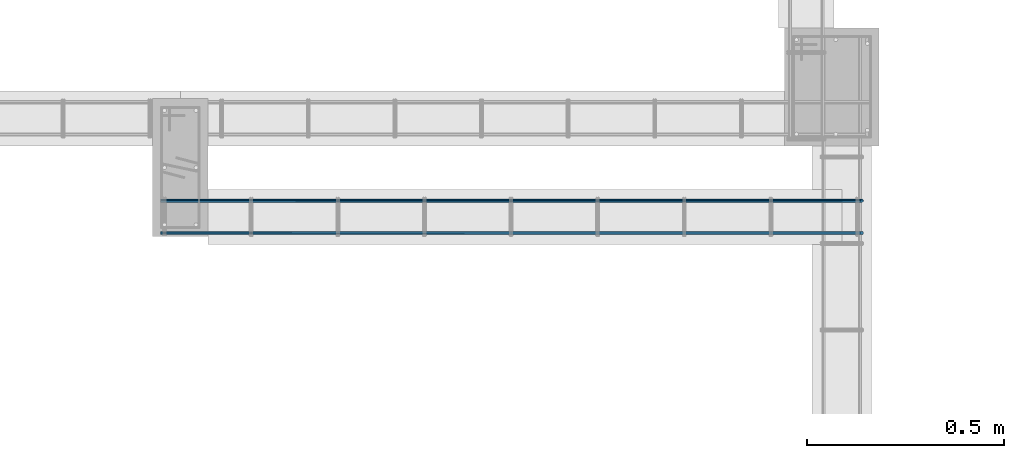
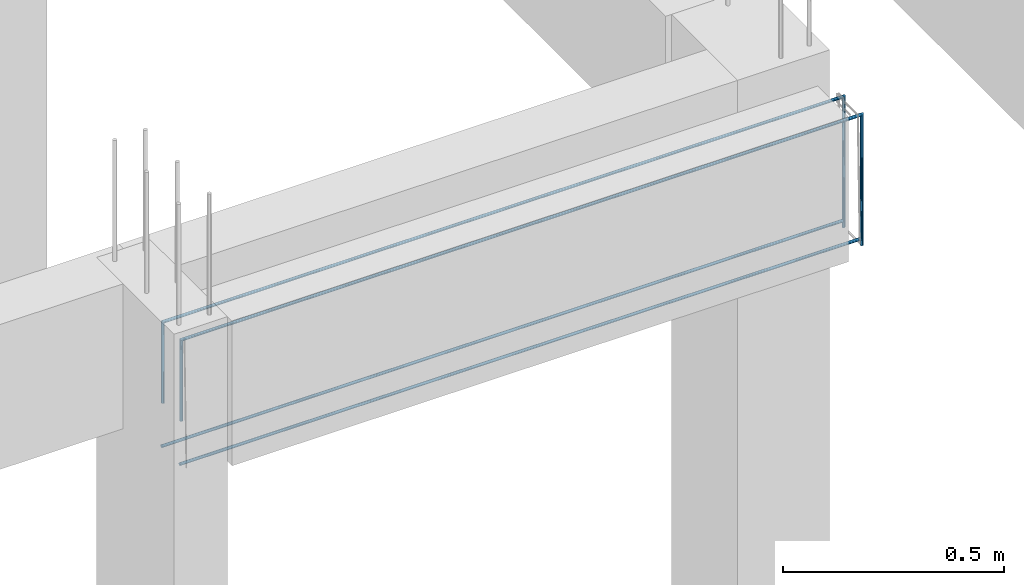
# One storey, part 92 of 236: 4 reinforcing bars.
"""IFC4 building model written with IfcOpenShell, lengths in centimetres."""

from ifc_helpers import new_model, entity, si_unit, derived_unit, frame, origin_with_axes, place, context, project, spatial, element, save


model = new_model("IFC4")

# Units and contexts
model_context = context("Model", 3, precision=1e-05, world=origin_with_axes(), identifier="Body")
ifc_project = project(units=[si_unit("LENGTHUNIT", "METRE", prefix="CENTI"), si_unit("VOLUMEUNIT", "CUBIC_METRE"), si_unit("AREAUNIT", "SQUARE_METRE"), si_unit("POWERUNIT", "WATT"), si_unit("LUMINOUSFLUXUNIT", "LUMEN"), si_unit("ELECTRICCURRENTUNIT", "AMPERE"), si_unit("PRESSUREUNIT", "PASCAL", prefix="KILO"), si_unit("MASSUNIT", "GRAM", prefix="KILO"), si_unit("PLANEANGLEUNIT", "RADIAN"), derived_unit("VOLUMETRICFLOWRATEUNIT", [(si_unit("LENGTHUNIT", "METRE"), 3), (si_unit("TIMEUNIT", "SECOND"), -1)])], contexts=[model_context])

# Site, building, storey
site_placement = place(None, frame((-4000.0, 0.0, 0.0), z_axis=(0.0, 0.0, 1.0), x_axis=(1.0, 0.0, 0.0)))
site = spatial("IfcSite", under=ifc_project, at=site_placement, Name="PADRÃO")
building_placement = place(site_placement, frame((0.0, 0.0, -14.0)))
building = spatial("IfcBuilding", under=site, at=building_placement, Name="CRECHE PRÉ-ESCOLA TIPO 2")
placement_1 = place(building_placement, origin_with_axes())
placement_2 = place(placement_1, frame((0.0, 0.0, 30.0), z_axis=(0.0, 0.0, 1.0), x_axis=(1.0, 0.0, 0.0)))
storey_placement = place(placement_2, frame((0.0, 0.0, 310.0), z_axis=(0.0, 0.0, 1.0), x_axis=(1.0, 0.0, 0.0)))
storey = spatial("IfcBuildingStorey", under=building, at=storey_placement, Name="TERREO", CompositionType="ELEMENT", Elevation=326.0)

# Reinforcing bars
for number, where, z_axis, x_axis, name in (
    (1, (3063.7618751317, 2557.62, -14.8022873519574), (0.0, 0.0, 1.0), (1.0, 0.0, 0.0), "V229 - Longitudinal inferior"),
    (2, (3063.7618751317, 2549.42, -14.8022873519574), (0.0, 0.0, 1.0), (1.0, 0.0, 0.0), "V229 - Longitudinal inferior"),
):
    element("IfcReinforcingBar", number, at=place(storey_placement, frame(where, z_axis=z_axis, x_axis=x_axis)), inside=storey, Name=name, BarLength=0.0, CrossSectionArea=5.0265482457e-05, NominalDiameter=0.8, PredefinedType="MAIN", context=model_context, shape_type="AdvancedSweptSolid", body=[
        entity("IfcSweptDiskSolid", entity("IfcCompositeCurve", [entity("IfcCompositeCurveSegment", "CONTINUOUS", True, entity("IfcPolyline", [entity("IfcCartesianPoint", [-89.2618751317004, 0.0, -22.2977126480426]), entity("IfcCartesianPoint", [88.8581248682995, 0.0, -22.2977126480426])])), entity("IfcCompositeCurveSegment", "CONTINUOUS", True, entity("IfcPolyline", [entity("IfcCartesianPoint", [88.8581248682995, 0.0, -22.2977126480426]), entity("IfcCartesianPoint", [88.8581248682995, 0.0, 0.0])]))], False), 0.4),
    ])
for number, where, z_axis, x_axis, name in (
    (3, (3063.76, 2549.42, -2.49624973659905), (0.0, 0.0, 1.0), (1.0, 0.0, 0.0), "V229 - Longitudinal superior"),
    (4, (3063.76, 2557.62, -2.49624973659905), (0.0, 0.0, 1.0), (1.0, 0.0, 0.0), "V229 - Longitudinal superior"),
):
    element("IfcReinforcingBar", number, at=place(storey_placement, frame(where, z_axis=z_axis, x_axis=x_axis)), inside=storey, Name=name, BarLength=0.0, CrossSectionArea=5.0265482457e-05, NominalDiameter=0.8, PredefinedType="MAIN", context=model_context, shape_type="AdvancedSweptSolid", body=[
        entity("IfcSweptDiskSolid", entity("IfcCompositeCurve", [entity("IfcCompositeCurveSegment", "CONTINUOUS", True, entity("IfcPolyline", [entity("IfcCartesianPoint", [-88.86, 0.0, -22.7014629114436]), entity("IfcCartesianPoint", [-88.86, 0.0, -0.403750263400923])])), entity("IfcCompositeCurveSegment", "CONTINUOUS", True, entity("IfcPolyline", [entity("IfcCartesianPoint", [-88.86, 0.0, -0.403750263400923]), entity("IfcCartesianPoint", [88.86, 0.0, -0.403750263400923])])), entity("IfcCompositeCurveSegment", "CONTINUOUS", True, entity("IfcPolyline", [entity("IfcCartesianPoint", [88.86, 0.0, -0.403750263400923]), entity("IfcCartesianPoint", [88.86, 0.0, -36.4037502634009])]))], False), 0.4),
    ])

save(model, "model.ifc")
